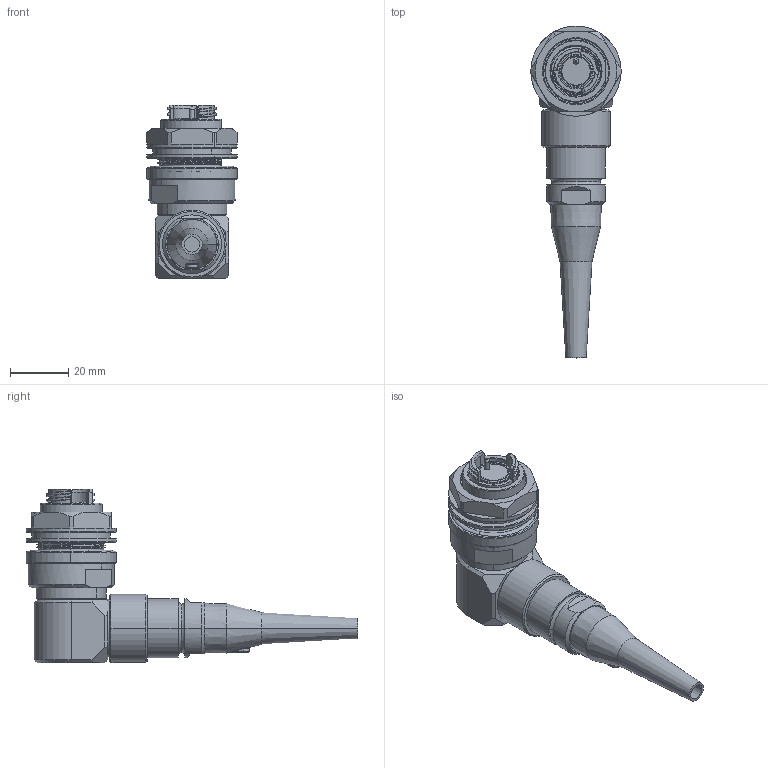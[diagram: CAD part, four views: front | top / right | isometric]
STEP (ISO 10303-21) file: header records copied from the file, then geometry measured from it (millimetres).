
FILE_DESCRIPTION (( 'STEP AP214' ), '1' );
FILE_NAME ('QMICRO90S-RJXX-XXXX-SXX.STEP', '2025-05-02T23:40:02', ( '' ), ( '' ), 'SwSTEP 2.0', 'SolidWorks 2024', '' );
FILE_SCHEMA (( 'AUTOMOTIVE_DESIGN' ));
Length unit declared in the file: inch
Products named in the file (1): QMICRO90S-RJXX-XXXX-SXX
Bounding box: 31 x 114.03 x 59.69 mm (x, y, z)
Volume: 46747.5 mm3; surface area: 17247.3 mm2
Topology: 1 solids, 4 shells, 398 faces, 1034 edges, 663 vertices
Faces by surface type: cylinder 144, plane 93, cone 79, bspline 59, torus 23
Entity records: 25752 total; most frequent: CARTESIAN_POINT 16821, ORIENTED_EDGE 2068, DIRECTION 1663, EDGE_CURVE 1034, VERTEX_POINT 663, AXIS2_PLACEMENT_3D 658, EDGE_LOOP 429, ADVANCED_FACE 398
